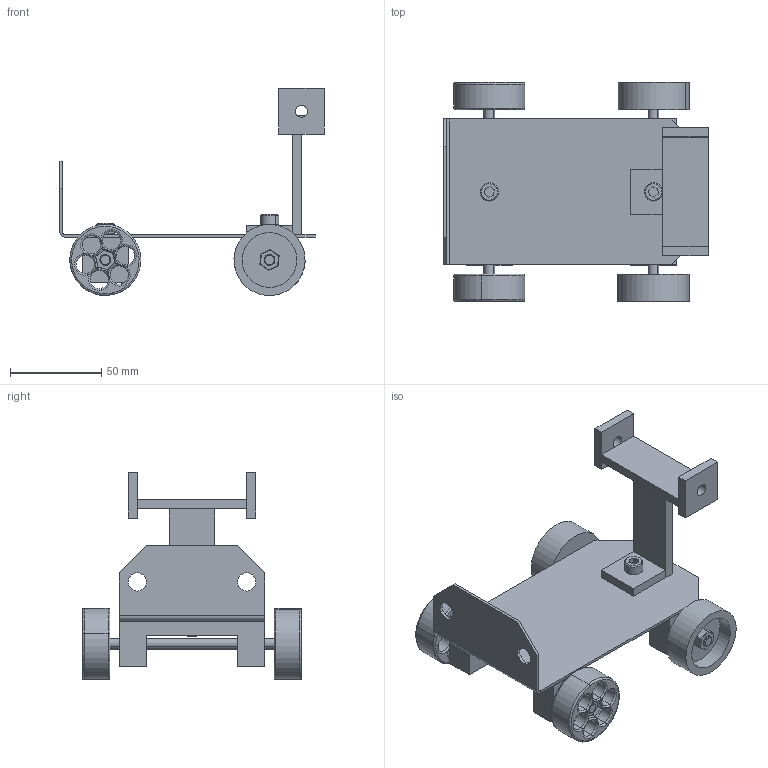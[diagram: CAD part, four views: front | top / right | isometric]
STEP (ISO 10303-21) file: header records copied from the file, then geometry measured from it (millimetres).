
FILE_DESCRIPTION (( 'STEP AP214' ), '1' );
FILE_NAME ('Assemblage Voiture.STEP', '2022-07-14T16:14:57', ( '' ), ( '' ), 'SwSTEP 2.0', 'SolidWorks 2021', '' );
FILE_SCHEMA (( 'AUTOMOTIVE_DESIGN' ));
Length unit declared in the file: millimetre
Products named in the file (12): Vis CHC M6x10; Ecrou M6; Roue Tournage; Plaque Tolerie; Support roue Fraisage; Vis CHC M6x14; Assemblage Voiture; Vis CHC M6x110; Assemblage Aileron Soudure; Base aileron; Roue Impression 3D; Mat aileron
Assembly tree (19 placements, depth 3):
  Assemblage Voiture
    Plaque Tolerie
    Roue Impression 3D  x2
    Roue Tournage  x2
    Support roue Fraisage  x2
    Vis CHC M6x110  x2
    Ecrou M6  x2
    Assemblage Aileron Soudure
      Base aileron  x3
      Mat aileron  x2
    Vis CHC M6x10
    Vis CHC M6x14
Bounding box: 145 x 120 x 113.49 mm (x, y, z)
Volume: 152296.6 mm3; surface area: 88479.2 mm2
Topology: 18 solids, 18 shells, 368 faces, 906 edges, 564 vertices
Faces by surface type: plane 180, cylinder 104, torus 60, cone 24
Entity records: 7032 total; most frequent: CARTESIAN_POINT 1252, DIRECTION 1176, ORIENTED_EDGE 1032, EDGE_CURVE 516, AXIS2_PLACEMENT_3D 450, VERTEX_POINT 322, VECTOR 276, LINE 276
